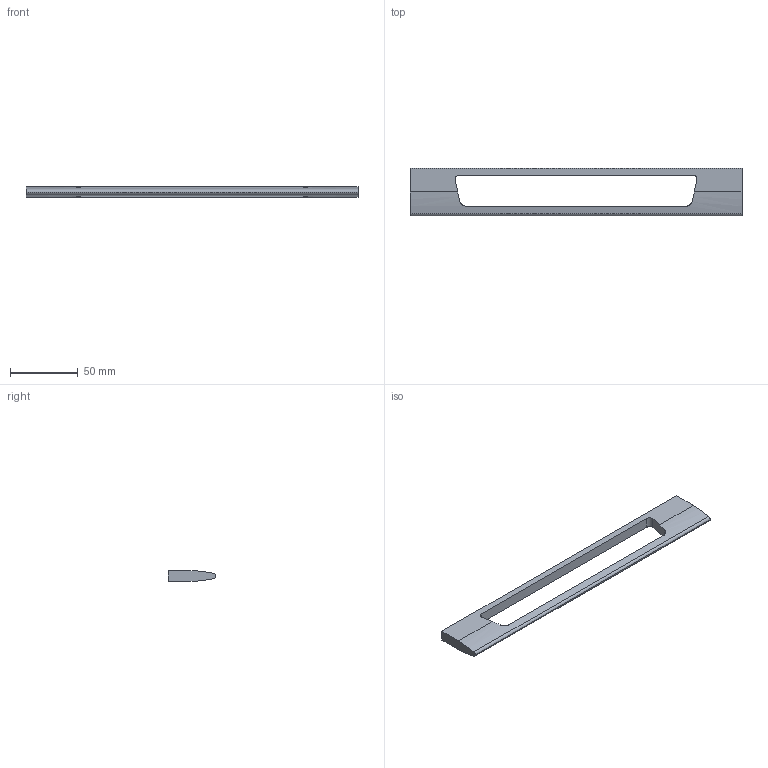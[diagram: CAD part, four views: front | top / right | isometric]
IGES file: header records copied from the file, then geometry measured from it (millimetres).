
Start section: Data from Parasolid IGES Translator 15.0.47, Copyright(c) 2006 Siemens P LM Software. All Rights Reserved.
Global section: file name: 9105837.igs; native system:  By UGS Corp.; preprocessor: XPlus GENERIC/IGES 3.0; author: Noname; organization: Noname; date: 20140122.182917; units: millimetre
Bounding box: 245 x 35 x 8 mm (x, y, z)
Surface area: 15134.8 mm2 (no closed solid volume)
Topology: 0 solids, 0 shells, 22 faces, 120 edges, 118 vertices
Faces by surface type: revolution 11, extrusion 11
